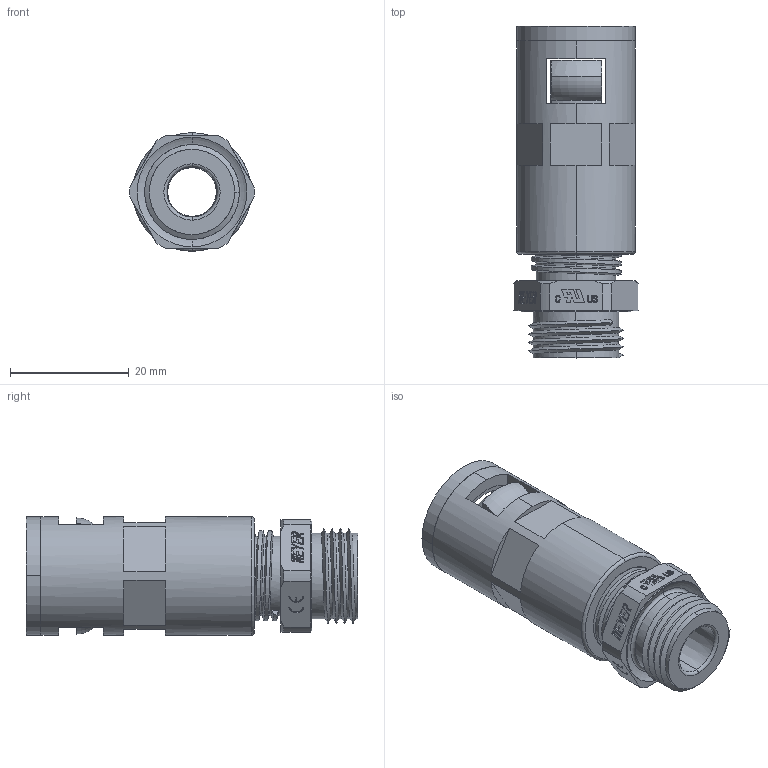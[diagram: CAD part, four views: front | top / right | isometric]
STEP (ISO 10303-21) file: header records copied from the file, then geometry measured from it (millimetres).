
FILE_DESCRIPTION (( 'STEP AP203' ), '1' );
FILE_NAME ('WQGZ-M16-AD13.0.STEP', '2018-09-26T05:48:48', ( '' ), ( '' ), 'SwSTEP 2.0', 'SolidWorks 2016', '' );
FILE_SCHEMA (( 'CONFIG_CONTROL_DESIGN' ));
Length unit declared in the file: millimetre
Products named in the file (8): WQG2-Tr15-AD13.0; 蚾饜极; GFD-AD13.0; NSK-AD13.0; HSK-M16-01; WQG2-Tr15-AD13.0-01; CTH-P09; WQGZ-M16-AD13.0
Assembly tree (7 placements, depth 3):
  WQGZ-M16-AD13.0
    WQG2-Tr15-AD13.0
      WQG2-Tr15-AD13.0-01
      GFD-AD13.0
      NSK-AD13.0
    蚾饜极
      HSK-M16-01
      CTH-P09
Bounding box: 20.99 x 56 x 20 mm (x, y, z)
Volume: 8579.4 mm3; surface area: 10924.2 mm2
Topology: 4 solids, 7 shells, 554 faces, 1460 edges, 947 vertices
Faces by surface type: plane 295, cone 79, bspline 73, cylinder 66, torus 41
Entity records: 23521 total; most frequent: CARTESIAN_POINT 9565, ORIENTED_EDGE 2912, DIRECTION 2467, EDGE_CURVE 1460, VERTEX_POINT 947, AXIS2_PLACEMENT_3D 842, LINE 783, VECTOR 783
